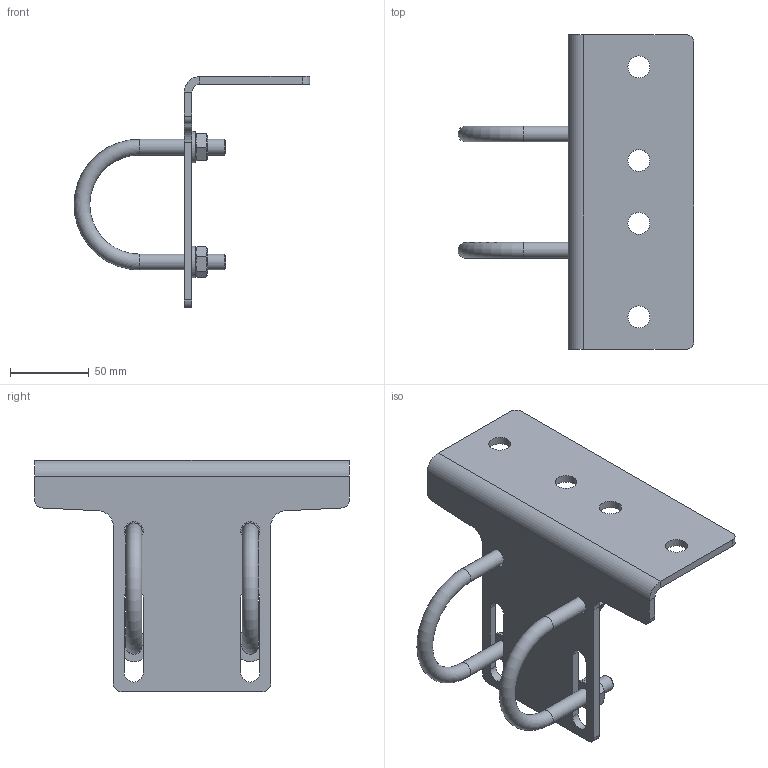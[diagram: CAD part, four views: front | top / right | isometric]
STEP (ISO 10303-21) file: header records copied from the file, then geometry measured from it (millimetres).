
FILE_DESCRIPTION(/* description */ (''),/* implementation_level */ '2;1');
FILE_NAME(/* name */ 'D:\VDV Techniek\Documents\Inventor\_ISP_Products\UDG on Round Tube Kit\Round tube kit original\STP\Round tube 60mm-out-Mounting bracket.stp',/* time_stamp */ '2022-12-29T15:05:27+01:00',/* author */ ('jos'),/* organization */ (''),/* preprocessor_version */ 'ST-DEVELOPER v15.2',/* originating_system */ 'Autodesk Inventor 2014',/* authorisation */ '');
FILE_SCHEMA (('AUTOMOTIVE_DESIGN { 1 0 10303 214 3 1 1 }'));
Length unit declared in the file: millimetre
Products named in the file (5): UDG_Mounting_Bracket_universal_HDG; Krambeugel 60mm; DIN 125 - A 10,5; DIN 934 - M10 x 1,5; Round tube 60mm-out-Mounting bracket
Assembly tree (11 placements, depth 2):
  Round tube 60mm-out-Mounting bracket
    UDG_Mounting_Bracket_universal_HDG
    Krambeugel 60mm  x2
    DIN 125 - A 10,5  x4
    DIN 934 - M10 x 1,5  x4
Bounding box: 150 x 200 x 147 mm (x, y, z)
Volume: 192869.2 mm3; surface area: 87475.9 mm2
Topology: 11 solids, 11 shells, 122 faces, 272 edges, 172 vertices
Faces by surface type: plane 64, cylinder 36, cone 20, torus 2
Full cylindrical faces by diameter (mm): 8.376 x4, 10 x4, 10.5 x4, 12 x2, 14 x4, 20 x4
Entity records: 1959 total; most frequent: DIRECTION 338, CARTESIAN_POINT 334, ORIENTED_EDGE 268, AXIS2_PLACEMENT_3D 136, EDGE_CURVE 134, EDGE_LOOP 102, VERTEX_POINT 96, LINE 66
